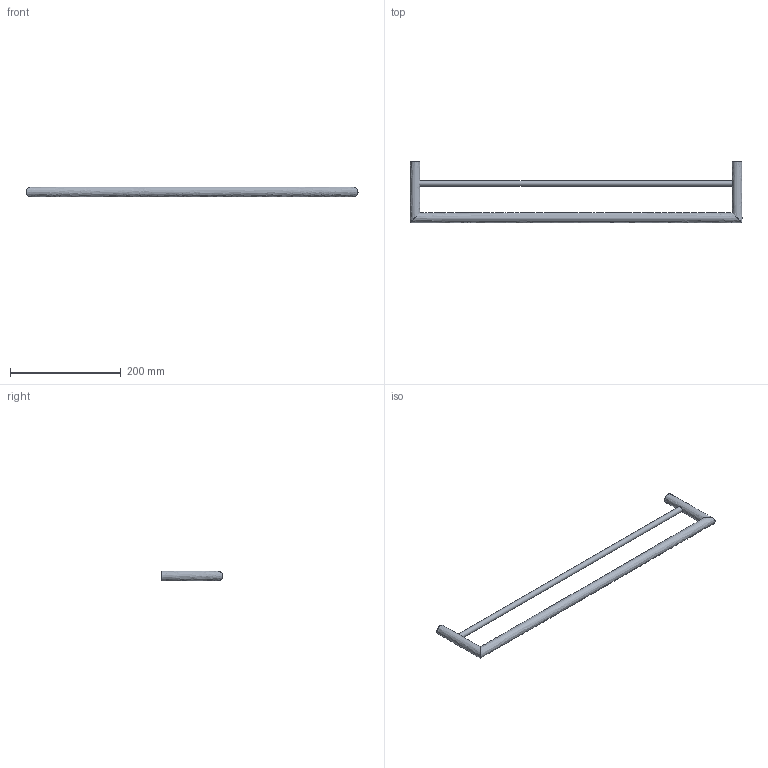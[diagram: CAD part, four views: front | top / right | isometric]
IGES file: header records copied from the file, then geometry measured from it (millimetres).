
Global section: file name: /Users/f/Desktop/II/AM217.igs; native system: Rhinoceros ( Jul 22 2010 ); preprocessor: Trout Lake IGES 012 Jul 22 2010; date: 100802.142718; units: millimetre
Bounding box: 600 x 111 x 18 mm (x, y, z)
Surface area: 63157.1 mm2 (no closed solid volume)
Topology: 0 solids, 0 shells, 8 faces, 191 edges, 190 vertices
Faces by surface type: bspline 8
